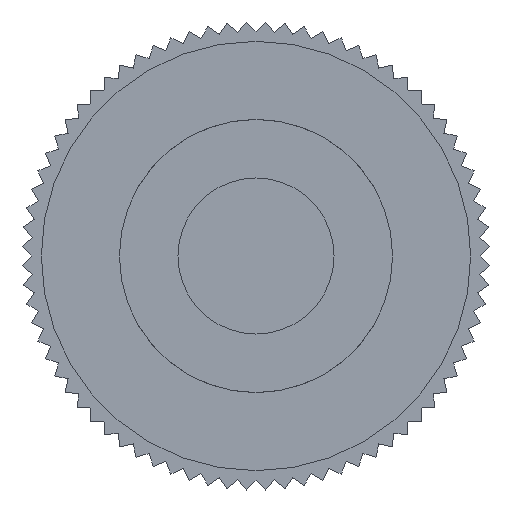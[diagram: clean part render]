
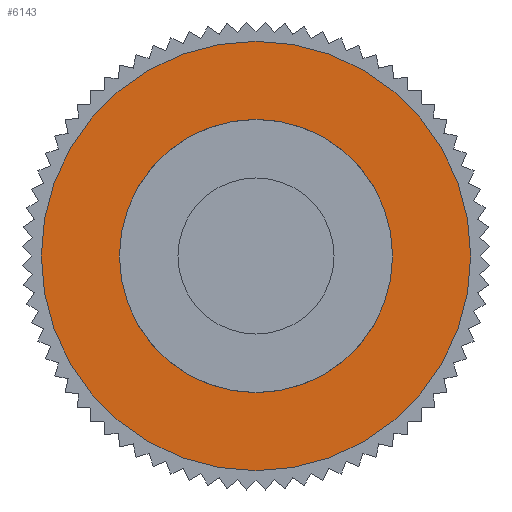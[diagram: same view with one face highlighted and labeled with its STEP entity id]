
A CAD part, left-side view. The second image highlights one B-rep face of the part: STEP entity #6143.
In plain terms, the highlighted planar face has unit normal (-1, 0, 0).
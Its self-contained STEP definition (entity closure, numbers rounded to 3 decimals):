
#86=FACE_BOUND('',#2064,.T.);
#713=LINE('',#10563,#1323);
#717=LINE('',#10572,#1327);
#1323=VECTOR('',#8492,10.);
#1327=VECTOR('',#8498,10.);
#1742=FACE_OUTER_BOUND('',#2063,.T.);
#2063=EDGE_LOOP('',(#5321,#5322));
#2064=EDGE_LOOP('',(#5323,#5324,#5325,#5326));
#2317=CIRCLE('',#6800,3.5);
#2318=CIRCLE('',#6802,5.5);
#2319=CIRCLE('',#6803,5.5);
#2320=CIRCLE('',#6804,3.5);
#2914=VERTEX_POINT('',#10561);
#2915=VERTEX_POINT('',#10562);
#2918=VERTEX_POINT('',#10570);
#2919=VERTEX_POINT('',#10571);
#2922=VERTEX_POINT('',#10582);
#2923=VERTEX_POINT('',#10583);
#3798=EDGE_CURVE('',#2914,#2915,#713,.T.);
#3802=EDGE_CURVE('',#2918,#2919,#717,.T.);
#3807=EDGE_CURVE('',#2914,#2919,#2317,.T.);
#3808=EDGE_CURVE('',#2922,#2923,#2318,.T.);
#3809=EDGE_CURVE('',#2923,#2922,#2319,.T.);
#3810=EDGE_CURVE('',#2918,#2915,#2320,.T.);
#5321=ORIENTED_EDGE('',*,*,#3808,.F.);
#5322=ORIENTED_EDGE('',*,*,#3809,.F.);
#5323=ORIENTED_EDGE('',*,*,#3810,.T.);
#5324=ORIENTED_EDGE('',*,*,#3798,.F.);
#5325=ORIENTED_EDGE('',*,*,#3807,.T.);
#5326=ORIENTED_EDGE('',*,*,#3802,.F.);
#5839=PLANE('',#6801);
#6143=ADVANCED_FACE('',(#1742,#86),#5839,.T.);
#6800=AXIS2_PLACEMENT_3D('',#10580,#8506,#8507);
#6801=AXIS2_PLACEMENT_3D('',#10581,#8508,#8509);
#6802=AXIS2_PLACEMENT_3D('',#10584,#8510,#8511);
#6803=AXIS2_PLACEMENT_3D('',#10585,#8512,#8513);
#6804=AXIS2_PLACEMENT_3D('',#10586,#8514,#8515);
#8492=DIRECTION('',(0.,1.,0.));
#8498=DIRECTION('',(0.,-1.,0.));
#8506=DIRECTION('center_axis',(1.,0.,0.));
#8507=DIRECTION('ref_axis',(0.,0.,-1.));
#8508=DIRECTION('center_axis',(-1.,0.,0.));
#8509=DIRECTION('ref_axis',(0.,0.,1.));
#8510=DIRECTION('center_axis',(1.,0.,0.));
#8511=DIRECTION('ref_axis',(0.,0.,-1.));
#8512=DIRECTION('center_axis',(1.,0.,0.));
#8513=DIRECTION('ref_axis',(0.,0.,-1.));
#8514=DIRECTION('center_axis',(1.,0.,0.));
#8515=DIRECTION('ref_axis',(0.,0.,-1.));
#10561=CARTESIAN_POINT('',(-9.,-1.803,3.));
#10562=CARTESIAN_POINT('',(-9.,1.803,3.));
#10563=CARTESIAN_POINT('',(-9.,-0.901,3.));
#10570=CARTESIAN_POINT('',(-9.,1.803,-3.));
#10571=CARTESIAN_POINT('',(-9.,-1.803,-3.));
#10572=CARTESIAN_POINT('',(-9.,0.901,-3.));
#10580=CARTESIAN_POINT('Origin',(-9.,0.,0.));
#10581=CARTESIAN_POINT('Origin',(-9.,5.5,0.));
#10582=CARTESIAN_POINT('',(-9.,5.5,0.));
#10583=CARTESIAN_POINT('',(-9.,-5.5,0.));
#10584=CARTESIAN_POINT('Origin',(-9.,0.,0.));
#10585=CARTESIAN_POINT('Origin',(-9.,0.,0.));
#10586=CARTESIAN_POINT('Origin',(-9.,0.,0.));
